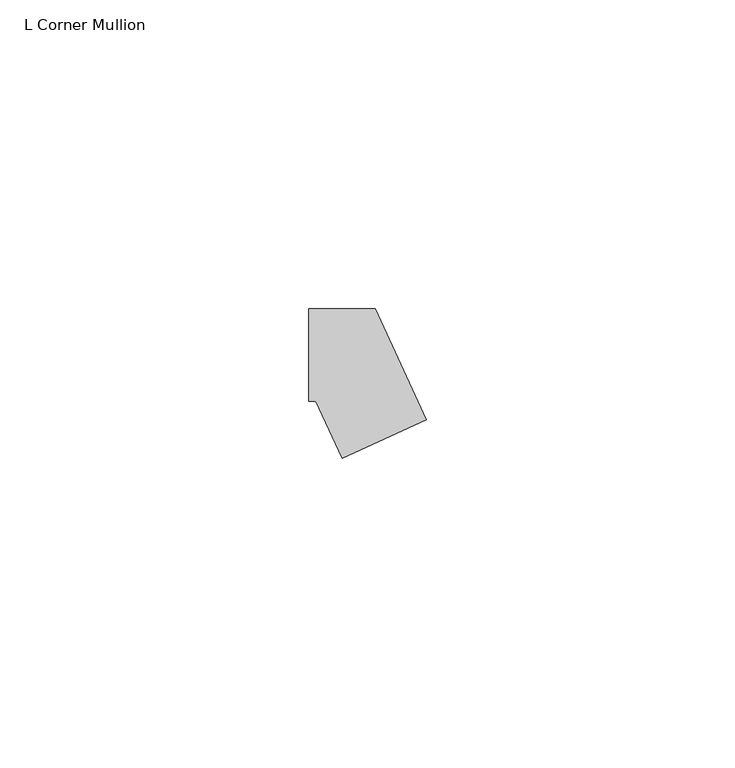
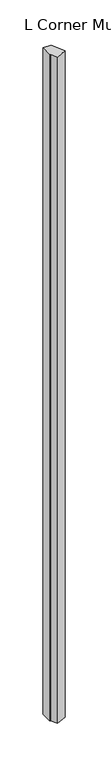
"""IFC4 building model written with IfcOpenShell, lengths in millimetres: member geometry, L Corner Mullion : ARQ_HERR_15X6mm."""

from ifc_helpers import new_model, si_unit, frame, origin, place, context, project, spatial, polyline, outline, extrude, source, transform, mapped, element, save


def l_corner_mullion_0b7e8c85(model_context):
    return source(origin(), model_context, "Body", "SweptSolid", [
        extrude(outline(polyline([(-0.5775282, -16.7605627), (-4.8156946, -7.5), (-6.0, -7.5), (-6.0, 7.5), (4.8156946, 7.5), (13.0619332, -10.5183601), (-0.5775282, -16.7605627)])), frame((0.0, 0.0, -941.2043467), z_axis=(0.0, 0.0, 1.0), x_axis=(1.0, 0.0, 0.0)), (0.0, 0.0, 1.0), 941.2043467),
    ])


if __name__ == "__main__":
    model = new_model("IFC4")
    model_context = context("Model", 3, world=origin())
    ifc_project = project(units=[si_unit("LENGTHUNIT", "METRE", prefix="MILLI")], contexts=[model_context])
    site = spatial("IfcSite", under=ifc_project)
    building = spatial("IfcBuilding", under=site)
    placement = place(None, origin())
    l_corner_mullion_shape = l_corner_mullion_0b7e8c85(model_context)
    element("IfcMember", 1, ObjectType="L Corner Mullion : ARQ_HERR_15X6mm", at=placement, inside=building, context=model_context, shape_type="MappedRepresentation", body=[
        mapped(l_corner_mullion_shape, transform((0.0, 0.0, 0.0), x_axis=(1.0, 0.0, 0.0), y_axis=(0.0, 1.0, 0.0), z_axis=(0.0, 0.0, 1.0))),
    ])
    save(model, "model.ifc")
